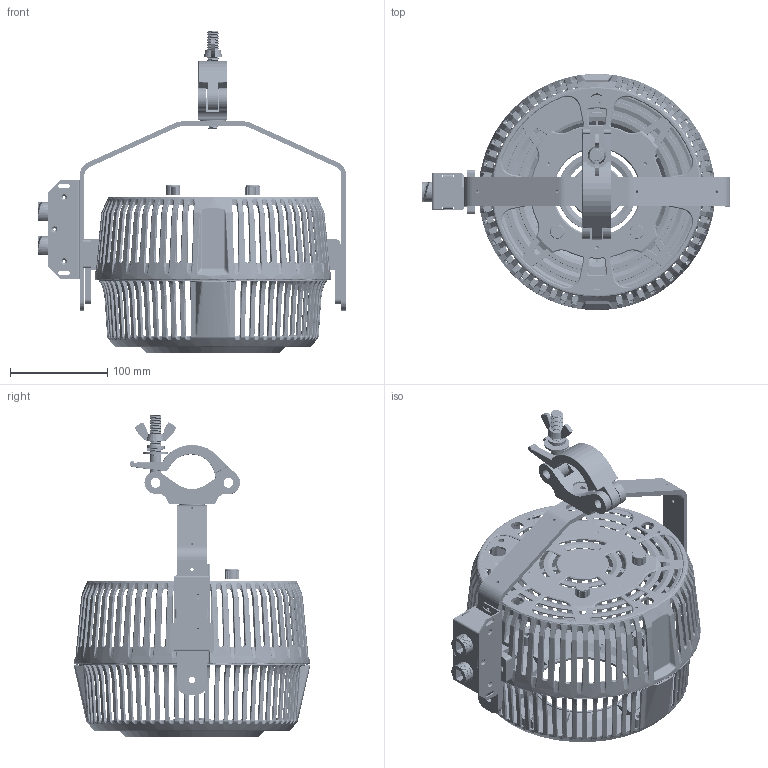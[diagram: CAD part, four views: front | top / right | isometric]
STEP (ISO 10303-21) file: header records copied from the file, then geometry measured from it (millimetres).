
FILE_DESCRIPTION (( 'STEP AP214' ), '1' );
FILE_NAME ('W2KX-CLP_fixture.STEP', '2024-02-29T19:29:16', ( '' ), ( '' ), 'SwSTEP 2.0', 'SolidWorks 2022', '' );
FILE_SCHEMA (( 'AUTOMOTIVE_DESIGN' ));
Length unit declared in the file: millimetre
Products named in the file (16): BOTTOM COVER_X2___.STEP; 5022530-2022-01-10___.STEP; RJ45_WaterProof_3352I02029___.STEP; 5022499_X2_Single Arm Pivot Base___.STEP; 5021926_A1_KNOB, 18T, OD=14.9, ID=6, L=10MM___.STEP; SCREW, M8 L8 CAP HEAD, HEX SOCKET, SUS, BLACK___.STEP; Top Assembly W2K_20220609_15.STEP; 5021736-006_A2_Aluminum Hook, M12_Original.STEP; TOP COVER_X2___.STEP; RJ45_WaterProof_3352I02029-PCB Housing___.STEP; 5022531_X1_BOTTOM HOUSING FOR W2K&A2K.STEP; 5022495-XXX_A3_Yoke, 275x30x195mm___.STEP; 5022496_X2_Yoke Adapter___.STEP; CLP+TOKE___.STEP; DMX Signal Cable_X2___.STEP; W2KX-CLP_fixture
Assembly tree (18 placements, depth 5):
  W2KX-CLP_fixture
    Top Assembly W2K_20220609_15.STEP
      DMX Signal Cable_X2___.STEP
        RJ45_WaterProof_3352I02029___.STEP  x2
          RJ45_WaterProof_3352I02029-PCB Housing___.STEP
        BOTTOM COVER_X2___.STEP
        TOP COVER_X2___.STEP
      CLP+TOKE___.STEP
        5021736-006_A2_Aluminum Hook, M12_Original.STEP
        5022495-XXX_A3_Yoke, 275x30x195mm___.STEP
      5022531_X1_BOTTOM HOUSING FOR W2K&A2K.STEP
      5022496_X2_Yoke Adapter___.STEP  x2
      5022530-2022-01-10___.STEP
      5021926_A1_KNOB, 18T, OD=14.9, ID=6, L=10MM___.STEP  x2
      SCREW, M8 L8 CAP HEAD, HEX SOCKET, SUS, BLACK___.STEP
      5022499_X2_Single Arm Pivot Base___.STEP
Bounding box: 318.15 x 243.79 x 331.76 mm (x, y, z)
Volume: 569916.1 mm3; surface area: 454557.2 mm2
Topology: 21 solids, 21 shells, 6232 faces, 16523 edges, 10125 vertices
Faces by surface type: bspline 2395, plane 1512, cylinder 1351, torus 493, cone 463, sphere 18
Entity records: 345270 total; most frequent: CARTESIAN_POINT 224053, ORIENTED_EDGE 29804, DIRECTION 19702, EDGE_CURVE 14902, VERTEX_POINT 9065, AXIS2_PLACEMENT_3D 8233, B_SPLINE_CURVE_WITH_KNOTS 6528, EDGE_LOOP 5941
